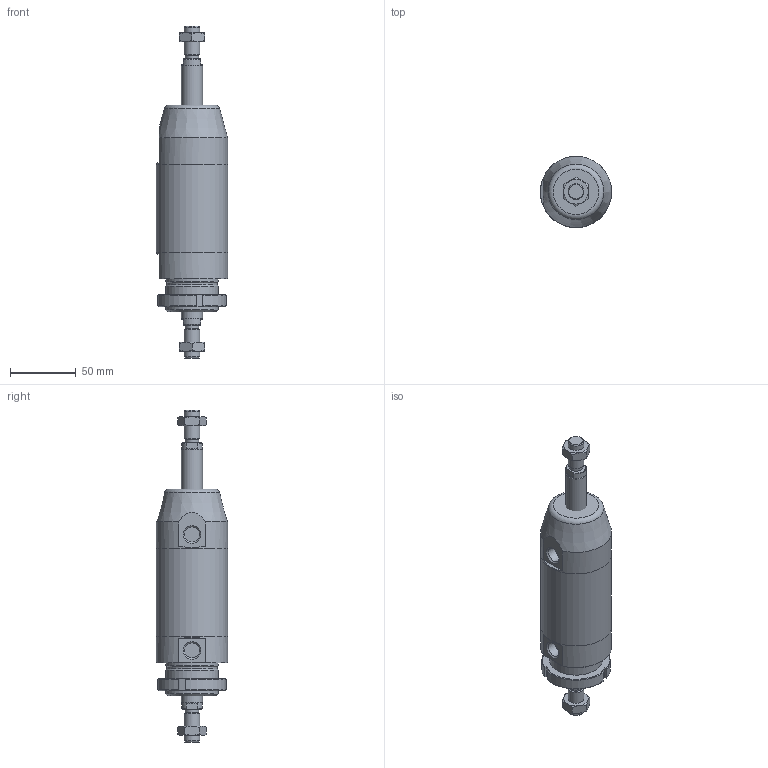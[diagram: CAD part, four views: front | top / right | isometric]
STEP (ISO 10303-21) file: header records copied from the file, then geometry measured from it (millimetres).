
FILE_DESCRIPTION(/* description */ (''),/* implementation_level */ '2;1');
FILE_NAME(/* name */ 'I:\Area Tecnica\Documenti\A-Manieri\_Inventor\12X\12X#T_###_####_#_#\12XCT_050_0025_#_#.stp',/* time_stamp */ '2015-05-13T08:45:56+02:00',/* author */ ('maniean1'),/* organization */ ('Pneumax S.p.A.'),/* preprocessor_version */ 'ST-DEVELOPER v15.2',/* originating_system */ 'Autodesk Inventor 2014',/* authorisation */ '');
FILE_SCHEMA (('AUTOMOTIVE_DESIGN { 1 0 10303 214 3 1 1 }'));
Length unit declared in the file: millimetre
Products named in the file (7): C1250_619-0025; 12X50_604; SP12X50_0025; 12X_50_11; 12X50_613; G12X_050_05; 12XCT_050_0025_#_#
Bounding box: 54 x 54 x 252 mm (x, y, z)
Volume: 301978.4 mm3; surface area: 75082.7 mm2
Topology: 7 solids, 7 shells, 107 faces, 239 edges, 153 vertices
Faces by surface type: plane 54, cylinder 26, cone 26, torus 1
Full cylindrical faces by diameter (mm): 10.2 x2, 11.4 x2, 12 x4, 14 x2, 15.6 x2, 16 x2, 38.2 x1, 40 x3, 50 x2, 54 x3
Entity records: 2546 total; most frequent: CARTESIAN_POINT 474, DIRECTION 433, ORIENTED_EDGE 338, AXIS2_PLACEMENT_3D 187, EDGE_CURVE 169, EDGE_LOOP 150, VERTEX_POINT 129, ADVANCED_FACE 96
